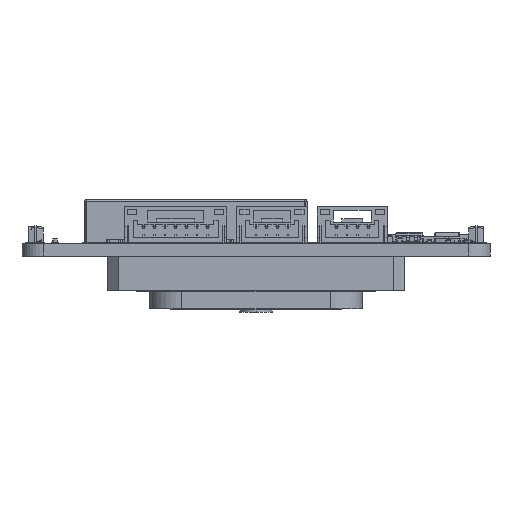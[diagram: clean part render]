
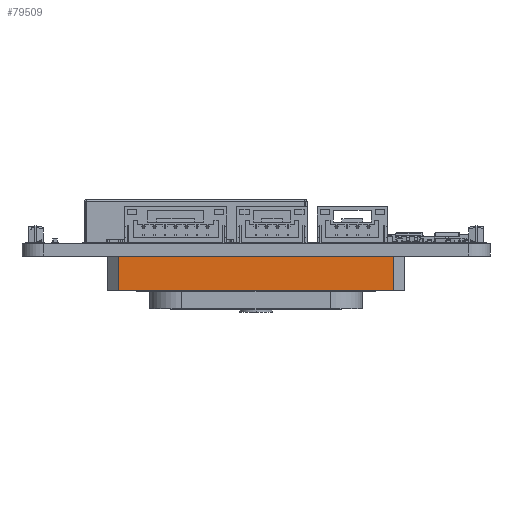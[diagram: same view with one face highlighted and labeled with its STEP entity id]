
A CAD part, front view. The second image highlights one B-rep face of the part: STEP entity #79509.
In plain terms, the highlighted planar face has unit normal (0, -1, 0) as drawn and (0, 0, 1) by its records, which use the part's own axes.
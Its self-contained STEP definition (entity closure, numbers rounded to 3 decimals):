
#79309 = VERTEX_POINT('',#79310);
#79310 = CARTESIAN_POINT('',(-16.2,4.,17.5));
#79316 = EDGE_CURVE('',#79309,#79317,#79319,.T.);
#79317 = VERTEX_POINT('',#79318);
#79318 = CARTESIAN_POINT('',(16.2,4.,17.5));
#79319 = LINE('',#79320,#79321);
#79320 = CARTESIAN_POINT('',(-17.5,4.,17.5));
#79321 = VECTOR('',#79322,1.);
#79322 = DIRECTION('',(1.,0.,0.));
#79509 = ADVANCED_FACE('',(#79510),#79535,.F.);
#79510 = FACE_BOUND('',#79511,.T.);
#79511 = EDGE_LOOP('',(#79512,#79513,#79521,#79529));
#79512 = ORIENTED_EDGE('',*,*,#79316,.F.);
#79513 = ORIENTED_EDGE('',*,*,#79514,.T.);
#79514 = EDGE_CURVE('',#79309,#79515,#79517,.T.);
#79515 = VERTEX_POINT('',#79516);
#79516 = CARTESIAN_POINT('',(-16.2,0.,17.5));
#79517 = LINE('',#79518,#79519);
#79518 = CARTESIAN_POINT('',(-16.2,4.,17.5));
#79519 = VECTOR('',#79520,1.);
#79520 = DIRECTION('',(0.,-1.,0.));
#79521 = ORIENTED_EDGE('',*,*,#79522,.T.);
#79522 = EDGE_CURVE('',#79515,#79523,#79525,.T.);
#79523 = VERTEX_POINT('',#79524);
#79524 = CARTESIAN_POINT('',(16.2,0.,17.5));
#79525 = LINE('',#79526,#79527);
#79526 = CARTESIAN_POINT('',(-17.5,0.,17.5));
#79527 = VECTOR('',#79528,1.);
#79528 = DIRECTION('',(1.,0.,0.));
#79529 = ORIENTED_EDGE('',*,*,#79530,.T.);
#79530 = EDGE_CURVE('',#79523,#79317,#79531,.T.);
#79531 = LINE('',#79532,#79533);
#79532 = CARTESIAN_POINT('',(16.2,4.,17.5));
#79533 = VECTOR('',#79534,1.);
#79534 = DIRECTION('',(0.,1.,0.));
#79535 = PLANE('',#79536);
#79536 = AXIS2_PLACEMENT_3D('',#79537,#79538,#79539);
#79537 = CARTESIAN_POINT('',(-17.5,4.,17.5));
#79538 = DIRECTION('',(0.,0.,-1.));
#79539 = DIRECTION('',(-1.,0.,-0.));
